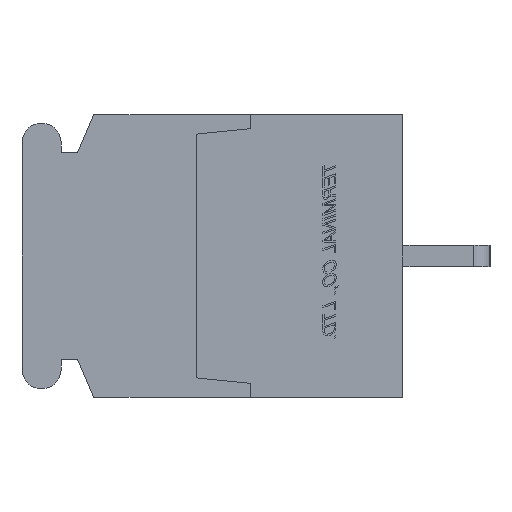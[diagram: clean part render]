
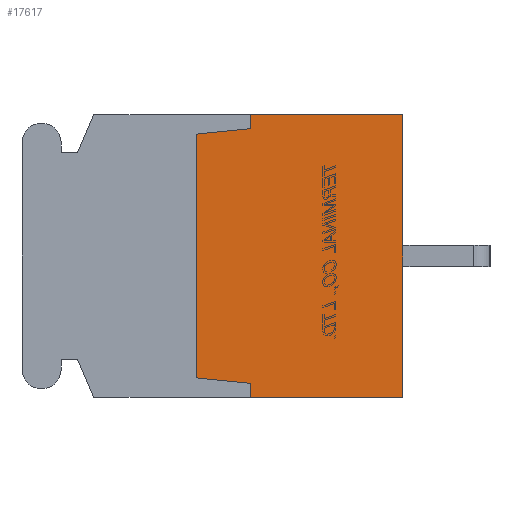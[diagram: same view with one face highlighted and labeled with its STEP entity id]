
A CAD part, left-side view. The second image highlights one B-rep face of the part: STEP entity #17617.
In plain terms, the highlighted planar face has unit normal (-1, 0, 0).
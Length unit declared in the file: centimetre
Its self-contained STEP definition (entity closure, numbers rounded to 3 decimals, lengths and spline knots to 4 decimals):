
#2432=VECTOR('',#21798,1.);
#2433=VECTOR('',#21799,1.);
#2434=VECTOR('',#21800,1.);
#2435=VECTOR('',#21801,1.);
#2436=VECTOR('',#21802,1.);
#2437=VECTOR('',#21803,1.);
#2438=VECTOR('',#21804,1.);
#2439=VECTOR('',#21805,1.);
#4410=LINE('',#27501,#2432);
#4411=LINE('',#27504,#2433);
#4412=LINE('',#27506,#2434);
#4413=LINE('',#27508,#2435);
#4414=LINE('',#27510,#2436);
#4415=LINE('',#27512,#2437);
#4416=LINE('',#27514,#2438);
#4417=LINE('',#27516,#2439);
#6254=VERTEX_POINT('',#27502);
#6255=VERTEX_POINT('',#27503);
#6256=VERTEX_POINT('',#27505);
#6257=VERTEX_POINT('',#27507);
#6258=VERTEX_POINT('',#27509);
#6259=VERTEX_POINT('',#27511);
#6260=VERTEX_POINT('',#27513);
#6261=VERTEX_POINT('',#27515);
#8832=EDGE_CURVE('',#6254,#6255,#4410,.T.);
#8833=EDGE_CURVE('',#6256,#6254,#4411,.T.);
#8834=EDGE_CURVE('',#6257,#6256,#4412,.T.);
#8835=EDGE_CURVE('',#6258,#6257,#4413,.T.);
#8836=EDGE_CURVE('',#6259,#6258,#4414,.T.);
#8837=EDGE_CURVE('',#6260,#6259,#4415,.T.);
#8838=EDGE_CURVE('',#6261,#6260,#4416,.T.);
#8839=EDGE_CURVE('',#6255,#6261,#4417,.T.);
#13440=ORIENTED_EDGE('',*,*,#8832,.F.);
#13441=ORIENTED_EDGE('',*,*,#8833,.F.);
#13442=ORIENTED_EDGE('',*,*,#8834,.F.);
#13443=ORIENTED_EDGE('',*,*,#8835,.F.);
#13444=ORIENTED_EDGE('',*,*,#8836,.F.);
#13445=ORIENTED_EDGE('',*,*,#8837,.F.);
#13446=ORIENTED_EDGE('',*,*,#8838,.F.);
#13447=ORIENTED_EDGE('',*,*,#8839,.F.);
#15513=EDGE_LOOP('',(#13440,#13441,#13442,#13443,#13444,#13445,#13446,#13447));
#16605=FACE_BOUND('',#15513,.T.);
#17617=ADVANCED_FACE('',(#16605),#18435,.F.);
#18435=PLANE('',#30203);
#21797=DIRECTION('',(1.,0.,0.));
#21798=DIRECTION('',(0.,0.,-1.));
#21799=DIRECTION('',(0.,-1.,0.));
#21800=DIRECTION('',(0.,0.,1.));
#21801=DIRECTION('',(0.,-0.995,0.1));
#21802=DIRECTION('',(0.,0.,1.));
#21803=DIRECTION('',(0.,0.995,0.1));
#21804=DIRECTION('',(0.,0.,1.));
#21805=DIRECTION('',(0.,1.,0.));
#27500=CARTESIAN_POINT('',(-1.07,0.4626,0.));
#27501=CARTESIAN_POINT('',(-1.07,0.,0.65));
#27502=CARTESIAN_POINT('',(-1.07,0.,0.65));
#27503=CARTESIAN_POINT('',(-1.07,0.,-0.65));
#27504=CARTESIAN_POINT('',(-1.07,0.7,0.65));
#27505=CARTESIAN_POINT('',(-1.07,0.7,0.65));
#27506=CARTESIAN_POINT('',(-1.07,0.7,0.585));
#27507=CARTESIAN_POINT('',(-1.07,0.7,0.585));
#27508=CARTESIAN_POINT('',(-1.07,0.95,0.56));
#27509=CARTESIAN_POINT('',(-1.07,0.95,0.56));
#27510=CARTESIAN_POINT('',(-1.07,0.95,-0.56));
#27511=CARTESIAN_POINT('',(-1.07,0.95,-0.56));
#27512=CARTESIAN_POINT('',(-1.07,0.7,-0.585));
#27513=CARTESIAN_POINT('',(-1.07,0.7,-0.585));
#27514=CARTESIAN_POINT('',(-1.07,0.7,-0.65));
#27515=CARTESIAN_POINT('',(-1.07,0.7,-0.65));
#27516=CARTESIAN_POINT('',(-1.07,0.,-0.65));
#30203=AXIS2_PLACEMENT_3D('',#27500,#21797,$);
